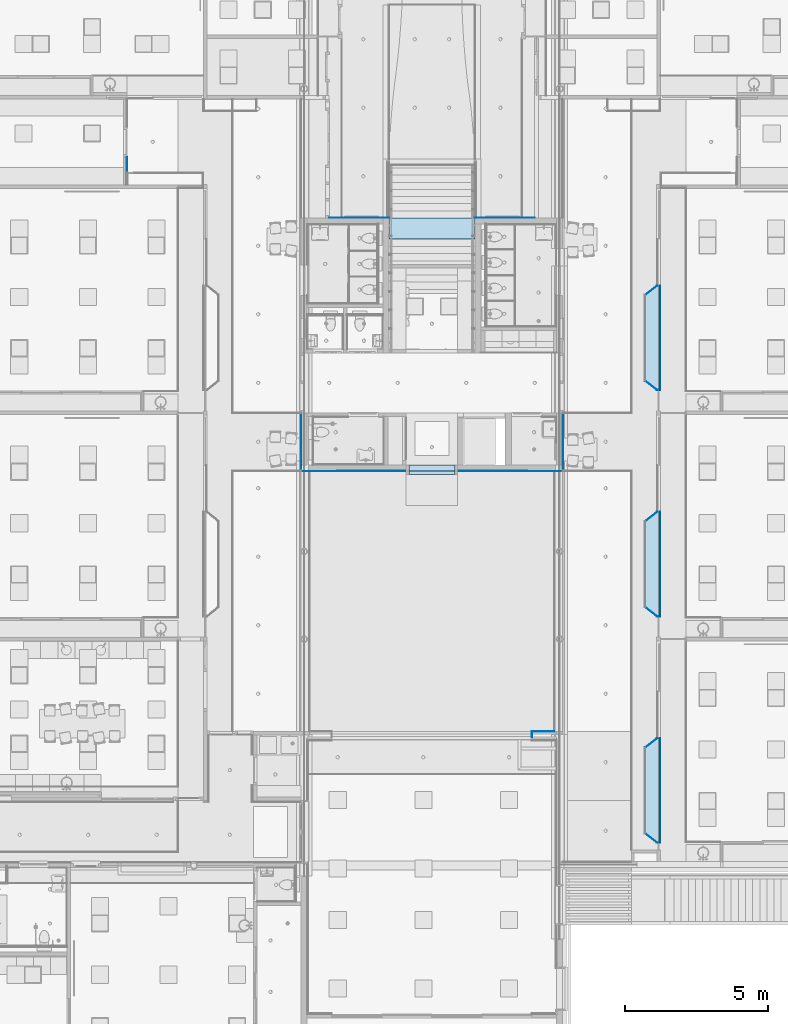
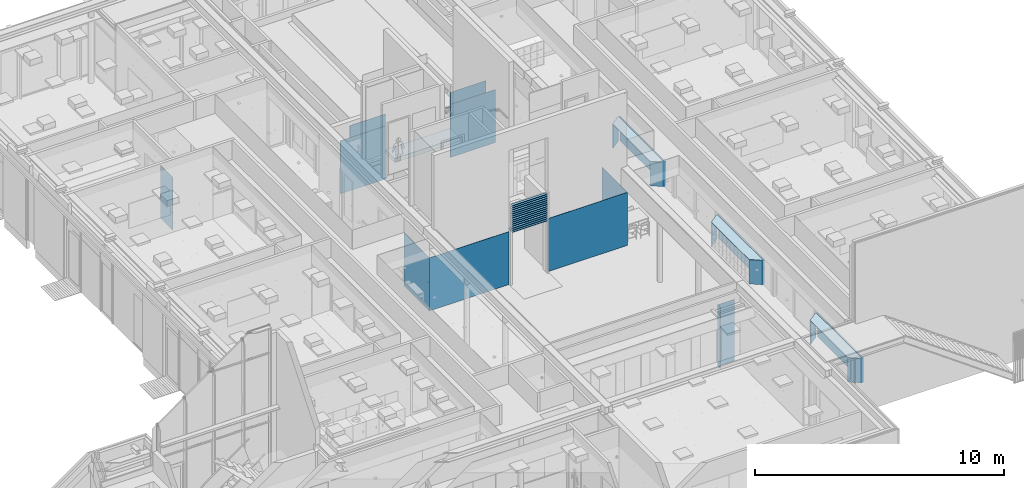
# One storey, part 38 of 347: 40 plates, 1 slab, 1 element without a shape of its own.
"""IFC2X3 building model written with IfcOpenShell, lengths in millimetres."""

from ifc_helpers import new_model, entity, si_unit, converted_unit, derived_unit, money_unit, direction, frame, origin_with_axes, place, context, subcontext, project, spatial, faceted_brep, material, type_object, element, aggregate, save


model = new_model("IFC2X3")

# Units and contexts
model_context = context("Model", 3, precision=0.01, world=origin_with_axes(), true_north=direction((0.0, 1.0)))
plan_context = context("Plan", 3, precision=0.01, world=origin_with_axes(), true_north=direction((0.0, 1.0)))
body_context = subcontext(model_context, "Body", "Model", "MODEL_VIEW")
ifc_project = project(units=[si_unit("LENGTHUNIT", "METRE", prefix="MILLI"), si_unit("AREAUNIT", "SQUARE_METRE"), si_unit("VOLUMEUNIT", "CUBIC_METRE"), converted_unit("PLANEANGLEUNIT", "DEGREE", entity("IfcPlaneAngleMeasure", 0.0174532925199), si_unit("PLANEANGLEUNIT", "RADIAN"), dimensions=[0, 0, 0, 0, 0, 0, 0]), money_unit("EUR"), converted_unit("TIMEUNIT", "Year", entity("IfcTimeMeasure", 31556926.0), si_unit("TIMEUNIT", "SECOND"), dimensions=[0, 0, 1, 0, 0, 0, 0]), si_unit("MASSUNIT", "GRAM", prefix="KILO"), si_unit("THERMODYNAMICTEMPERATUREUNIT", "DEGREE_CELSIUS"), si_unit("LUMINOUSINTENSITYUNIT", "LUMEN"), si_unit("ENERGYUNIT", "JOULE", prefix="MEGA"), derived_unit("THERMALCONDUCTANCEUNIT", [(si_unit("POWERUNIT", "WATT"), 1), (si_unit("LENGTHUNIT", "METRE"), -1), (si_unit("THERMODYNAMICTEMPERATUREUNIT", "KELVIN"), -1)]), derived_unit("SPECIFICHEATCAPACITYUNIT", [(si_unit("ENERGYUNIT", "JOULE"), 1), (si_unit("MASSUNIT", "GRAM", prefix="KILO"), -1), (si_unit("THERMODYNAMICTEMPERATUREUNIT", "KELVIN"), -1)]), derived_unit("MASSDENSITYUNIT", [(si_unit("MASSUNIT", "GRAM", prefix="KILO"), 1), (si_unit("VOLUMEUNIT", "CUBIC_METRE"), -1)])], contexts=[model_context, plan_context])

# Site, building, storey
site_placement = place(None, origin_with_axes())
site = spatial("IfcSite", under=ifc_project, at=site_placement, Name="Site", CompositionType="ELEMENT")
building_placement = place(site_placement, origin_with_axes())
building = spatial("IfcBuilding", under=site, at=building_placement, Name="Naam gebouw", CompositionType="ELEMENT")
storey_placement = place(building_placement, origin_with_axes())
storey = spatial("IfcBuildingStorey", under=building, at=storey_placement, Name="begane grond", CompositionType="ELEMENT", Elevation=0.0)

# Plates
ifc_material_1 = material(Name="Hout - Lockers")
plate_type_1 = type_object("IfcPlateType", Name="Hout - Lockers 1175", PredefinedType="SHEET")
for number, where, z_axis, x_axis, name in (
    (1, (48063.0, 24505.5, 0.0), (0.0, 0.0, 1.0), (1.0, 0.0, 0.0), "72_72 vaste inrichting"),
    (2, (48063.0, 16580.5, 0.0), (0.0, 0.0, 1.0), (1.0, 0.0, 0.0), "72_72 vaste inrichting"),
    (3, (48063.0, 32430.5, 0.0), (0.0, 0.0, 1.0), (1.0, 0.0, 0.0), "72_72 vaste inrichting"),
):
    element("IfcPlate", number, at=place(storey_placement, frame(where, z_axis=z_axis, x_axis=x_axis)), inside=storey, type_object=plate_type_1, material=ifc_material_1, Name=name, ObjectType="SHEET", context=body_context, shape_type="Brep", body=[
        faceted_brep([(0.0, 0.0, 1175.0), (0.0, 0.0, 0.0), (0.0, -3650.0, 0.0), (0.0, -3650.0, 1175.0), (12.0, 0.0, 1175.0), (12.0, 0.0, 0.0), (12.0, -3662.0, 0.0), (-76.9506197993, -3662.0, 0.0), (-92.5276958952, -3650.0, 0.0), (-92.5276958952, -3650.0, 1175.0), (-76.9506197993, -3662.0, 1175.0), (12.0, -3662.0, 1175.0)], [[[0, 1, 2, 3]], [[4, 5, 1, 0]], [[2, 1, 5, 6, 7, 8]], [[3, 2, 8, 9]], [[4, 0, 3, 9, 10, 11]], [[11, 6, 5, 4]], [[10, 7, 6, 11]], [[9, 8, 7, 10]]]),
    ])
plate_type_2 = type_object("IfcPlateType", Name="Hout - Lockers 25", PredefinedType="SHEET")
plate_1_placement = place(storey_placement, frame((48075.0, 28768.5, 1200.0), z_axis=(0.0, 0.0, 1.0), x_axis=(1.0, 0.0, 0.0)))
element("IfcPlate", 4, at=plate_1_placement, inside=storey, type_object=plate_type_2, material=ifc_material_1, Name="72_72 vaste inrichting", ObjectType="SHEET", context=body_context, shape_type="Brep", body=[
    faceted_brep([(0.0, 0.0, 0.0), (0.0, 0.0, -25.0), (0.0, 3662.0, -25.0), (0.0, 3662.0, 0.0), (-56.0, 0.0, 0.0), (-56.0, 0.0, -25.0), (-56.0, 3662.0, -25.0), (-56.0, 3662.0, 0.0)], [[[0, 1, 2, 3]], [[4, 5, 1, 0]], [[2, 1, 5, 6]], [[3, 2, 6, 7]], [[4, 0, 3, 7]], [[7, 6, 5, 4]]]),
])
plate_2_placement = place(storey_placement, frame((48075.0, 12918.5, 1200.0), z_axis=(0.0, 0.0, 1.0), x_axis=(1.0, 0.0, 0.0)))
element("IfcPlate", 5, at=plate_2_placement, inside=storey, type_object=plate_type_2, material=ifc_material_1, Name="72_72 vaste inrichting", ObjectType="SHEET", context=body_context, shape_type="Brep", body=[
    faceted_brep([(0.0, 0.0, 0.0), (0.0, 0.0, -25.0), (0.0, 3662.0, -25.0), (0.0, 3662.0, 0.0), (-52.5, 0.0, 0.0), (-52.5, 0.0, -25.0), (-52.5, 3662.0, -25.0), (-52.5, 3662.0, 0.0)], [[[0, 1, 2, 3]], [[4, 5, 1, 0]], [[2, 1, 5, 6]], [[3, 2, 6, 7]], [[4, 0, 3, 7]], [[7, 6, 5, 4]]]),
])
plate_3_placement = place(storey_placement, frame((48075.0, 20843.5, 1200.0), z_axis=(0.0, 0.0, 1.0), x_axis=(1.0, 0.0, 0.0)))
element("IfcPlate", 6, at=plate_3_placement, inside=storey, type_object=plate_type_2, material=ifc_material_1, Name="72_72 vaste inrichting", ObjectType="SHEET", context=body_context, shape_type="Brep", body=[
    faceted_brep([(0.0, 0.0, 0.0), (0.0, 0.0, -25.0), (0.0, 3662.0, -25.0), (0.0, 3662.0, 0.0), (-56.0, 0.0, 0.0), (-56.0, 0.0, -25.0), (-56.0, 3662.0, -25.0), (-56.0, 3662.0, 0.0)], [[[0, 1, 2, 3]], [[4, 5, 1, 0]], [[2, 1, 5, 6]], [[3, 2, 6, 7]], [[4, 0, 3, 7]], [[7, 6, 5, 4]]]),
])
ifc_material_2 = material(Name="ALG - LICHTE SCHEIDINGSWAND - master")
plate_type_3 = type_object("IfcPlateType", Name="ALG - LICHTE SCHEIDINGSWAND - master 2600", PredefinedType="SHEET")
plate_4_placement = place(storey_placement, frame((29387.5, 35962.5, 0.0), z_axis=(0.0, 0.0, 1.0), x_axis=(1.0, 0.0, 0.0)))
element("IfcPlate", 7, at=plate_4_placement, inside=storey, type_object=plate_type_3, material=ifc_material_2, Name="72_72 vaste inrichting", ObjectType="SHEET", context=body_context, shape_type="Brep", body=[
    faceted_brep([(0.0, 0.0, 2600.0), (0.0, 0.0, 0.0), (12.5, 0.0, 0.0), (12.5, 0.0, 2600.0), (0.0, 968.000017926, 2600.0), (0.0, 968.000017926, 0.0), (12.5, 968.000017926, 0.0), (12.5, 968.000017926, 2600.0)], [[[0, 1, 2, 3]], [[4, 5, 1, 0]], [[2, 1, 5, 6]], [[3, 2, 6, 7]], [[4, 0, 3, 7]], [[7, 6, 5, 4]]]),
])
plate_5_placement = place(storey_placement, frame((41575.0, 34800.0000358, 0.0), z_axis=(0.0, 0.0, 1.0), x_axis=(1.0, 0.0, 0.0)))
element("IfcPlate", 8, at=plate_5_placement, inside=storey, type_object=plate_type_3, material=ifc_material_2, Name="72_73 vaste inrichting", ObjectType="SHEET", context=body_context, shape_type="Brep", body=[
    faceted_brep([(2092.9999937, 0.0, 2600.0), (0.0, 0.0, 2600.0), (0.0, 0.0, 0.0), (2092.9999937, 0.0, 0.0), (49.9999990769, 0.0, 2440.00000105), (9.99999907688, 0.0, 2440.00000105), (9.99999907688, 0.0, 2464.64467611), (49.9999990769, 0.0, 2464.64467611), (2092.9999937, 11.9999642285, 2600.0), (0.0, 11.9999642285, 2600.0), (0.0, 11.9999642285, 0.0), (2092.9999937, 11.9999642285, 0.0), (49.9999990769, 11.9999642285, 2431.36002662), (9.99999907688, 11.9999642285, 2431.36002662), (9.99999907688, 11.9999642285, 2456.00470168), (49.9999990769, 11.9999642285, 2456.00470168)], [[[0, 1, 2, 3], [4, 5, 6, 7]], [[8, 9, 1, 0]], [[1, 9, 10, 2]], [[11, 3, 2, 10]], [[8, 0, 3, 11]], [[4, 12, 13, 5]], [[5, 13, 14, 6]], [[6, 14, 15, 7]], [[7, 15, 12, 4]], [[9, 8, 11, 10], [14, 13, 12, 15]]]),
])
plate_6_placement = place(storey_placement, frame((36482.0, 34800.0, 0.0), z_axis=(0.0, 0.0, 1.0), x_axis=(1.0, 0.0, 0.0)))
element("IfcPlate", 9, at=plate_6_placement, inside=storey, type_object=plate_type_3, material=ifc_material_2, Name="72_72 vaste inrichting", ObjectType="SHEET", context=body_context, shape_type="Brep", body=[
    faceted_brep([(2093.0, 0.0, 2600.0), (0.0, 0.0, 2600.0), (0.0, 0.0, 0.0), (2093.0, 0.0, 0.0), (2083.00000092, 3.57714995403e-05, 2440.00000105), (2043.00000092, 3.57714995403e-05, 2440.00000105), (2043.00000092, 3.57714995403e-05, 2464.64467611), (2083.00000092, 3.57714995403e-05, 2464.64467611), (2093.0, 12.0, 2600.0), (0.0, 12.0, 2600.0), (0.0, 12.0, 0.0), (2093.0, 12.0, 0.0), (2083.00000092, 12.0, 2431.36002662), (2043.00000092, 12.0, 2431.36002662), (2043.00000092, 12.0, 2456.00470168), (2083.00000092, 12.0, 2456.00470168)], [[[0, 1, 2, 3], [4, 5, 6, 7]], [[8, 9, 1, 0]], [[1, 9, 10, 2]], [[11, 3, 2, 10]], [[8, 0, 3, 11]], [[4, 12, 13, 5]], [[5, 13, 14, 6]], [[6, 14, 15, 7]], [[7, 15, 12, 4]], [[9, 8, 11, 10], [14, 13, 12, 15]]]),
])
plate_7_placement = place(storey_placement, frame((35482.9999813, 25928.0001323, 0.0), z_axis=(0.0, 0.0, 1.0), x_axis=(1.0, 0.0, 0.0)))
element("IfcPlate", 10, at=plate_7_placement, inside=storey, type_object=plate_type_3, material=ifc_material_2, Name="72_72 vaste inrichting", ObjectType="SHEET", context=body_context, shape_type="Brep", body=[
    faceted_brep([(3692.00009186, 0.0, 0.0), (3692.00009186, 0.0, 2600.0), (0.0, 0.0, 2600.0), (0.0, 0.0, 0.0), (3692.00001859, 12.0224292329, 0.0), (3692.00001859, 12.0224292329, 2600.0), (12.0000004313, 12.0, 2600.0), (12.0000735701, 2046.99972901, 2600.0), (0.0, 2046.99972901, 2600.0), (0.0, 2046.99972901, 0.0), (12.0000004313, 12.0, 0.0), (12.0000735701, 2046.99972901, 0.0)], [[[0, 1, 2, 3]], [[4, 5, 1, 0]], [[6, 7, 8, 2, 1, 5]], [[3, 2, 8, 9]], [[10, 4, 0, 3, 9, 11]], [[10, 6, 5, 4]], [[11, 7, 6, 10]], [[9, 8, 7, 11]]]),
])
plate_8_placement = place(storey_placement, frame((44667.0000187, 25928.0001323, 0.0), z_axis=(0.0, 0.0, 1.0), x_axis=(1.0, 0.0, 0.0)))
element("IfcPlate", 11, at=plate_8_placement, inside=storey, type_object=plate_type_3, material=ifc_material_2, Name="72_72 vaste inrichting", ObjectType="SHEET", context=body_context, shape_type="Brep", body=[
    faceted_brep([(0.0, 2046.99972901, 0.0), (0.0, 2046.99972901, 2600.0), (0.0, 0.0, 2600.0), (0.0, 0.0, 0.0), (-12.0000735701, 2046.99972901, 0.0), (-12.0000735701, 2046.99972901, 2600.0), (-12.0000004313, 12.0, 2600.0), (-3692.00001859, 12.0224292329, 2600.0), (-3692.00009186, 0.0, 2600.0), (-3692.00009186, 0.0, 0.0), (-12.0000004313, 12.0, 0.0), (-3692.00001859, 12.0224292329, 0.0)], [[[0, 1, 2, 3]], [[4, 5, 1, 0]], [[6, 7, 8, 2, 1, 5]], [[3, 2, 8, 9]], [[10, 4, 0, 3, 9, 11]], [[10, 6, 5, 4]], [[11, 7, 6, 10]], [[9, 8, 7, 11]]]),
])

# Stair, slab
stair_placement = place(storey_placement, frame((40075.0, 36550.0, 0.0), z_axis=(0.0, 0.0, 1.0), x_axis=(1.0, 0.0, 0.0)))
stair = element("IfcStair", 12, at=stair_placement, inside=storey, Name="24_Trap-x", ShapeType="NOTDEFINED")
ifc_material_3 = material(Name="Beton gewapend prefab")
slab_type = type_object("IfcSlabType", Name="IfcSlab", PredefinedType="LANDING")
slab_placement = place(stair_placement, origin_with_axes())
slab = element("IfcSlab", 13, at=slab_placement, type_object=slab_type, material=ifc_material_3, Name="24_Trapconstructie-x", PredefinedType="LANDING", context=body_context, shape_type="Brep", body=[
    faceted_brep([(-1500.0, -2478.93758557, 1440.0), (1500.0, -2478.93758557, 1440.0), (1500.0, -1750.0, 1440.0), (-1500.0, -1750.0, 1440.0), (1500.0, -2478.93758557, 1240.0), (-1500.0, -2478.93758557, 1240.0), (1500.0, -1750.0, 1240.0), (-1500.0, -1750.0, 1240.0)], [[[0, 1, 2, 3]], [[4, 1, 0, 5]], [[1, 4, 6, 2]], [[2, 6, 7, 3]], [[5, 0, 3, 7]], [[4, 5, 7, 6]]]),
])
aggregate(stair, [slab])

# Plates
plate_type_4 = type_object("IfcPlateType", Name="ALG - LICHTE SCHEIDINGSWAND - master 3000", PredefinedType="SHEET")
plate_9_placement = place(storey_placement, frame((44355.0012556, 16825.0000035, 0.0), z_axis=(0.0, 0.0, 1.0), x_axis=(1.0, 0.0, 0.0)))
element("IfcPlate", 14, at=plate_9_placement, inside=storey, type_object=plate_type_4, material=ifc_material_2, Name="72_72 vaste inrichting", ObjectType="SHEET", context=body_context, shape_type="Brep", body=[
    faceted_brep([(0.0, 0.0, 3000.0), (0.0, 0.0, 0.0), (-780.001255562, 0.0, 0.0), (-780.001255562, 0.0, 3000.0), (0.0, -12.5, 3000.0), (0.0, -12.5, 0.0), (-767.501255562, -12.5, 0.0), (-767.501255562, -199.999942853, 0.0), (-780.001255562, -199.999942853, 0.0), (-780.001255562, -199.999942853, 3000.0), (-767.501255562, -199.999942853, 3000.0), (-767.501255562, -12.5, 3000.0)], [[[0, 1, 2, 3]], [[4, 5, 1, 0]], [[2, 1, 5, 6, 7, 8]], [[3, 2, 8, 9]], [[4, 0, 3, 9, 10, 11]], [[11, 6, 5, 4]], [[10, 7, 6, 11]], [[9, 8, 7, 10]]]),
])
plate_type_5 = type_object("IfcPlateType", Name="ALG - LICHTE SCHEIDINGSWAND - master 25", PredefinedType="SHEET")
for number, where, z_axis, x_axis, name in (
    (15, (39265.0, 25826.0, 3500.0), (0.0, 0.0, 1.0), (1.0, 0.0, 0.0), "72_73 vaste inrichting"),
    (16, (39265.0, 25826.0, 2700.0), (0.0, 0.0, 1.0), (1.0, 0.0, 0.0), "72_73 vaste inrichting"),
    (17, (39265.0, 25826.0, 3800.0), (0.0, 0.0, 1.0), (1.0, 0.0, 0.0), "72_73 vaste inrichting"),
    (18, (39265.0, 25826.0, 3900.0), (0.0, 0.0, 1.0), (1.0, 0.0, 0.0), "72_73 vaste inrichting"),
    (19, (39265.0, 25826.0, 3700.0), (0.0, 0.0, 1.0), (1.0, 0.0, 0.0), "72_73 vaste inrichting"),
    (20, (39265.0, 25826.0, 3600.0), (0.0, 0.0, 1.0), (1.0, 0.0, 0.0), "72_73 vaste inrichting"),
    (21, (39265.0, 25826.0, 3400.0), (0.0, 0.0, 1.0), (1.0, 0.0, 0.0), "72_73 vaste inrichting"),
    (22, (39265.0, 25826.0, 3300.0), (0.0, 0.0, 1.0), (1.0, 0.0, 0.0), "72_73 vaste inrichting"),
    (23, (39265.0, 25826.0, 3200.0), (0.0, 0.0, 1.0), (1.0, 0.0, 0.0), "72_73 vaste inrichting"),
    (24, (39265.0, 25826.0, 3100.0), (0.0, 0.0, 1.0), (1.0, 0.0, 0.0), "72_73 vaste inrichting"),
    (25, (39265.0, 25826.0, 3000.0), (0.0, 0.0, 1.0), (1.0, 0.0, 0.0), "72_73 vaste inrichting"),
    (26, (39265.0, 25826.0, 2900.0), (0.0, 0.0, 1.0), (1.0, 0.0, 0.0), "72_73 vaste inrichting"),
    (27, (39265.0, 25826.0, 2800.0), (0.0, 0.0, 1.0), (1.0, 0.0, 0.0), "72_73 vaste inrichting"),
):
    element("IfcPlate", number, at=place(storey_placement, frame(where, z_axis=z_axis, x_axis=x_axis)), inside=storey, type_object=plate_type_5, material=ifc_material_2, Name=name, ObjectType="SHEET", context=body_context, shape_type="Brep", body=[
        faceted_brep([(0.0, 0.0, 0.0), (0.0, 0.0, -25.0), (1620.0, 0.0, -25.0), (1620.0, 0.0, 0.0), (0.0, 114.0, 0.0), (0.0, 114.0, -25.0), (1620.0, 114.0, -25.0), (1620.0, 114.0, 0.0)], [[[0, 1, 2, 3]], [[4, 5, 1, 0]], [[2, 1, 5, 6]], [[3, 2, 6, 7]], [[4, 0, 3, 7]], [[7, 6, 5, 4]]]),
    ])
plate_type_6 = type_object("IfcPlateType", Name="ALG - LICHTE SCHEIDINGSWAND - master 590", PredefinedType="SHEET")
for number, where, z_axis, x_axis, name in (
    (28, (36925.0, 34800.0, 2600.0), (0.0, 0.0, 1.0), (1.0, 0.0, 0.0), "72_72 vaste inrichting"),
    (29, (41575.0, 34800.0, 2600.0), (0.0, 0.0, 1.0), (1.0, 0.0, 0.0), "72_72 vaste inrichting"),
):
    element("IfcPlate", number, at=place(storey_placement, frame(where, z_axis=z_axis, x_axis=x_axis)), inside=storey, type_object=plate_type_6, material=ifc_material_2, Name=name, ObjectType="SHEET", context=body_context, shape_type="Brep", body=[
        faceted_brep([(0.0, 0.0, 590.0), (0.0, 0.0, 0.0), (1650.0, 0.0, 0.0), (1650.0, 0.0, 590.0), (0.0, 12.0, 590.0), (0.0, 12.0, 0.0), (1650.0, 12.0, 0.0), (1650.0, 12.0, 590.0)], [[[0, 1, 2, 3]], [[4, 5, 1, 0]], [[2, 1, 5, 6]], [[3, 2, 6, 7]], [[4, 0, 3, 7]], [[7, 6, 5, 4]]]),
    ])
ifc_material_4 = material(Name="24 Hout gevelbekleding Lariks master")
plate_type_7 = type_object("IfcPlateType", Name="24 Hout gevelbekleding Lariks master 25", PredefinedType="SHEET")
plate_10_placement = place(storey_placement, frame((39265.0, 25826.0, 2600.0), z_axis=(0.0, 0.0, 1.0), x_axis=(1.0, 0.0, 0.0)))
element("IfcPlate", 30, at=plate_10_placement, inside=storey, type_object=plate_type_7, material=ifc_material_4, Name="72_73 vaste inrichting", ObjectType="SHEET", context=body_context, shape_type="Brep", body=[
    faceted_brep([(0.0, 0.0, 0.0), (0.0, 0.0, -25.0), (1620.0, 0.0, -25.0), (1620.0, 0.0, 0.0), (0.0, 324.0, 0.0), (0.0, 324.0, -25.0), (1620.0, 324.0, -25.0), (1620.0, 324.0, 0.0)], [[[0, 1, 2, 3]], [[4, 5, 1, 0]], [[2, 1, 5, 6]], [[3, 2, 6, 7]], [[4, 0, 3, 7]], [[7, 6, 5, 4]]]),
])
plate_type_8 = type_object("IfcPlateType", Name="Hout - Lockers 1178", PredefinedType="SHEET")
plate_11_placement = place(storey_placement, frame((48002.5184672, 12940.9505553, 0.0), z_axis=(0.0, 0.0, 1.0), x_axis=(1.0, 0.0, 0.0)))
element("IfcPlate", 31, at=plate_11_placement, inside=storey, type_object=plate_type_8, material=ifc_material_1, Name="72_72 vaste inrichting", ObjectType="SHEET", context=body_context, shape_type="Brep", body=[
    faceted_brep([(0.0, 0.0, 1178.0), (0.0, 0.0, 0.0), (0.0, -0.450555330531, 0.0), (0.0, -0.450555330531, 1178.0), (0.707708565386, -0.450555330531, 1178.0), (0.707708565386, -0.450555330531, 0.0)], [[[0, 1, 2, 3]], [[4, 5, 1, 0]], [[2, 1, 5]], [[3, 2, 5, 4]], [[4, 0, 3]]]),
])
plate_12_placement = place(storey_placement, frame((47568.0237365, 32108.5, 0.0), z_axis=(0.0, 0.0, 1.0), x_axis=(1.0, 0.0, 0.0)))
element("IfcPlate", 32, at=plate_12_placement, inside=storey, type_object=plate_type_8, material=ifc_material_1, Name="72_72 vaste inrichting", ObjectType="SHEET", context=body_context, shape_type="Brep", body=[
    faceted_brep([(0.0, 0.0, 1178.0), (0.0, 0.0, 0.0), (418.027976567, 322.0, 0.0), (418.027976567, 322.0, 1178.0), (-36.0517130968, 0.0, 1178.0), (-36.0517130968, 0.0, 0.0), (381.97626347, 322.0, 0.0), (381.97626347, 322.0, 1178.0)], [[[0, 1, 2, 3]], [[4, 5, 1, 0]], [[2, 1, 5, 6]], [[3, 2, 6, 7]], [[4, 0, 3, 7]], [[7, 6, 5, 4]]]),
])
plate_13_placement = place(storey_placement, frame((47568.064505, 29090.5, 0.0), z_axis=(0.0, 0.0, 1.0), x_axis=(1.0, 0.0, 0.0)))
element("IfcPlate", 33, at=plate_13_placement, inside=storey, type_object=plate_type_8, material=ifc_material_1, Name="72_72 vaste inrichting", ObjectType="SHEET", context=body_context, shape_type="Brep", body=[
    faceted_brep([(0.0, 0.0, 1178.0), (0.0, 0.0, 0.0), (-36.0493802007, 0.0, 0.0), (-36.0493802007, 0.0, 1178.0), (417.984875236, -322.0, 1178.0), (417.984875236, -322.0, 0.0), (381.935495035, -322.0, 0.0), (381.935495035, -322.0, 1178.0)], [[[0, 1, 2, 3]], [[4, 5, 1, 0]], [[2, 1, 5, 6]], [[3, 2, 6, 7]], [[4, 0, 3, 7]], [[7, 6, 5, 4]]]),
])
plate_14_placement = place(storey_placement, frame((48002.5184672, 28790.9505553, 0.0), z_axis=(0.0, 0.0, 1.0), x_axis=(1.0, 0.0, 0.0)))
element("IfcPlate", 34, at=plate_14_placement, inside=storey, type_object=plate_type_8, material=ifc_material_1, Name="72_72 vaste inrichting", ObjectType="SHEET", context=body_context, shape_type="Brep", body=[
    faceted_brep([(0.0, 0.0, 1178.0), (0.0, 0.0, 0.0), (0.0, -0.450555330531, 0.0), (0.0, -0.450555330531, 1178.0), (0.707708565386, -0.450555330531, 1178.0), (0.707708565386, -0.450555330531, 0.0)], [[[0, 1, 2, 3]], [[4, 5, 1, 0]], [[2, 1, 5]], [[3, 2, 5, 4]], [[4, 0, 3]]]),
])
plate_15_placement = place(storey_placement, frame((47568.0237365, 24183.5, 0.0), z_axis=(0.0, 0.0, 1.0), x_axis=(1.0, 0.0, 0.0)))
element("IfcPlate", 35, at=plate_15_placement, inside=storey, type_object=plate_type_8, material=ifc_material_1, Name="72_72 vaste inrichting", ObjectType="SHEET", context=body_context, shape_type="Brep", body=[
    faceted_brep([(0.0, 0.0, 1178.0), (0.0, 0.0, 0.0), (418.027976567, 322.0, 0.0), (418.027976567, 322.0, 1178.0), (-36.0517130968, 0.0, 1178.0), (-36.0517130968, 0.0, 0.0), (381.97626347, 322.0, 0.0), (381.97626347, 322.0, 1178.0)], [[[0, 1, 2, 3]], [[4, 5, 1, 0]], [[2, 1, 5, 6]], [[3, 2, 6, 7]], [[4, 0, 3, 7]], [[7, 6, 5, 4]]]),
])
plate_16_placement = place(storey_placement, frame((47568.064505, 21165.5, 0.0), z_axis=(0.0, 0.0, 1.0), x_axis=(1.0, 0.0, 0.0)))
element("IfcPlate", 36, at=plate_16_placement, inside=storey, type_object=plate_type_8, material=ifc_material_1, Name="72_72 vaste inrichting", ObjectType="SHEET", context=body_context, shape_type="Brep", body=[
    faceted_brep([(0.0, 0.0, 1178.0), (0.0, 0.0, 0.0), (-36.0493802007, 0.0, 0.0), (-36.0493802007, 0.0, 1178.0), (417.984875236, -322.0, 1178.0), (417.984875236, -322.0, 0.0), (381.935495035, -322.0, 0.0), (381.935495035, -322.0, 1178.0)], [[[0, 1, 2, 3]], [[4, 5, 1, 0]], [[2, 1, 5, 6]], [[3, 2, 6, 7]], [[4, 0, 3, 7]], [[7, 6, 5, 4]]]),
])
plate_17_placement = place(storey_placement, frame((48002.5184672, 20865.9505553, 0.0), z_axis=(0.0, 0.0, 1.0), x_axis=(1.0, 0.0, 0.0)))
element("IfcPlate", 37, at=plate_17_placement, inside=storey, type_object=plate_type_8, material=ifc_material_1, Name="72_72 vaste inrichting", ObjectType="SHEET", context=body_context, shape_type="Brep", body=[
    faceted_brep([(0.0, 0.0, 1178.0), (0.0, 0.0, 0.0), (0.0, -0.450555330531, 0.0), (0.0, -0.450555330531, 1178.0), (0.707708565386, -0.450555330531, 1178.0), (0.707708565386, -0.450555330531, 0.0)], [[[0, 1, 2, 3]], [[4, 5, 1, 0]], [[2, 1, 5]], [[3, 2, 5, 4]], [[4, 0, 3]]]),
])
plate_18_placement = place(storey_placement, frame((47568.0237365, 16258.5, 0.0), z_axis=(0.0, 0.0, 1.0), x_axis=(1.0, 0.0, 0.0)))
element("IfcPlate", 38, at=plate_18_placement, inside=storey, type_object=plate_type_8, material=ifc_material_1, Name="72_72 vaste inrichting", ObjectType="SHEET", context=body_context, shape_type="Brep", body=[
    faceted_brep([(0.0, 0.0, 1178.0), (0.0, 0.0, 0.0), (418.027976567, 322.0, 0.0), (418.027976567, 322.0, 1178.0), (-36.0517130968, 0.0, 1178.0), (-36.0517130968, 0.0, 0.0), (381.97626347, 322.0, 0.0), (381.97626347, 322.0, 1178.0)], [[[0, 1, 2, 3]], [[4, 5, 1, 0]], [[2, 1, 5, 6]], [[3, 2, 6, 7]], [[4, 0, 3, 7]], [[7, 6, 5, 4]]]),
])
plate_19_placement = place(storey_placement, frame((47568.064505, 13240.5, 0.0), z_axis=(0.0, 0.0, 1.0), x_axis=(1.0, 0.0, 0.0)))
element("IfcPlate", 39, at=plate_19_placement, inside=storey, type_object=plate_type_8, material=ifc_material_1, Name="72_72 vaste inrichting", ObjectType="SHEET", context=body_context, shape_type="Brep", body=[
    faceted_brep([(0.0, 0.0, 1178.0), (0.0, 0.0, 0.0), (-36.0493802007, 0.0, 0.0), (-36.0493802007, 0.0, 1178.0), (417.984875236, -322.0, 1178.0), (417.984875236, -322.0, 0.0), (381.935495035, -322.0, 0.0), (381.935495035, -322.0, 1178.0)], [[[0, 1, 2, 3]], [[4, 5, 1, 0]], [[2, 1, 5, 6]], [[3, 2, 6, 7]], [[4, 0, 3, 7]], [[7, 6, 5, 4]]]),
])
plate_type_9 = type_object("IfcPlateType", Name="Hout - Lockers 22", PredefinedType="SHEET")
plate_20_placement = place(storey_placement, frame((48002.5026841, 28768.5, 1200.0), z_axis=(0.0, 0.0, 1.0), x_axis=(1.0, 0.0, 0.0)))
element("IfcPlate", 40, at=plate_20_placement, inside=storey, type_object=plate_type_9, material=ifc_material_1, Name="72_72 vaste inrichting", ObjectType="SHEET", context=body_context, shape_type="Brep", body=[
    faceted_brep([(0.0, 0.0, 0.0), (0.0, 0.0, -22.0), (-0.00268410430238, 3662.0, -22.0), (-0.00268410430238, 3662.0, 0.0), (-52.5026841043, 0.0, 0.0), (-52.5026841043, 0.0, -22.0), (-470.48755934, 322.0, -22.0), (-470.530660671, 3340.0, -22.0), (-52.5026841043, 3662.0, -22.0), (-52.5026841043, 3662.0, 0.0), (-470.530660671, 3340.0, 0.0), (-470.48755934, 322.0, 0.0)], [[[0, 1, 2, 3]], [[4, 5, 1, 0]], [[2, 1, 5, 6, 7, 8]], [[3, 2, 8, 9]], [[4, 0, 3, 9, 10, 11]], [[11, 6, 5, 4]], [[10, 7, 6, 11]], [[9, 8, 7, 10]]]),
])
plate_21_placement = place(storey_placement, frame((48002.5026841, 20843.5, 1200.0), z_axis=(0.0, 0.0, 1.0), x_axis=(1.0, 0.0, 0.0)))
element("IfcPlate", 41, at=plate_21_placement, inside=storey, type_object=plate_type_9, material=ifc_material_1, Name="72_72 vaste inrichting", ObjectType="SHEET", context=body_context, shape_type="Brep", body=[
    faceted_brep([(0.0, 0.0, 0.0), (0.0, 0.0, -22.0), (-0.00268410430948, 3662.0, -22.0), (-0.00268410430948, 3662.0, 0.0), (-52.5026841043, 0.0, 0.0), (-52.5026841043, 0.0, -22.0), (-470.48755934, 322.0, -22.0), (-470.530660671, 3340.0, -22.0), (-52.5026841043, 3662.0, -22.0), (-52.5026841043, 3662.0, 0.0), (-470.530660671, 3340.0, 0.0), (-470.48755934, 322.0, 0.0)], [[[0, 1, 2, 3]], [[4, 5, 1, 0]], [[2, 1, 5, 6, 7, 8]], [[3, 2, 8, 9]], [[4, 0, 3, 9, 10, 11]], [[11, 6, 5, 4]], [[10, 7, 6, 11]], [[9, 8, 7, 10]]]),
])
plate_22_placement = place(storey_placement, frame((48002.5026841, 12918.5, 1200.0), z_axis=(0.0, 0.0, 1.0), x_axis=(1.0, 0.0, 0.0)))
element("IfcPlate", 42, at=plate_22_placement, inside=storey, type_object=plate_type_9, material=ifc_material_1, Name="72_72 vaste inrichting", ObjectType="SHEET", context=body_context, shape_type="Brep", body=[
    faceted_brep([(0.0, 0.0, 0.0), (0.0, 0.0, -22.0), (-0.00268410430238, 3662.0, -22.0), (-0.00268410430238, 3662.0, 0.0), (-52.5026841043, 0.0, 0.0), (-52.5026841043, 0.0, -22.0), (-470.48755934, 322.0, -22.0), (-470.530660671, 3340.0, -22.0), (-52.5026841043, 3662.0, -22.0), (-52.5026841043, 3662.0, 0.0), (-470.530660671, 3340.0, 0.0), (-470.48755934, 322.0, 0.0)], [[[0, 1, 2, 3]], [[4, 5, 1, 0]], [[2, 1, 5, 6, 7, 8]], [[3, 2, 8, 9]], [[4, 0, 3, 9, 10, 11]], [[11, 6, 5, 4]], [[10, 7, 6, 11]], [[9, 8, 7, 10]]]),
])

save(model, "model.ifc")
